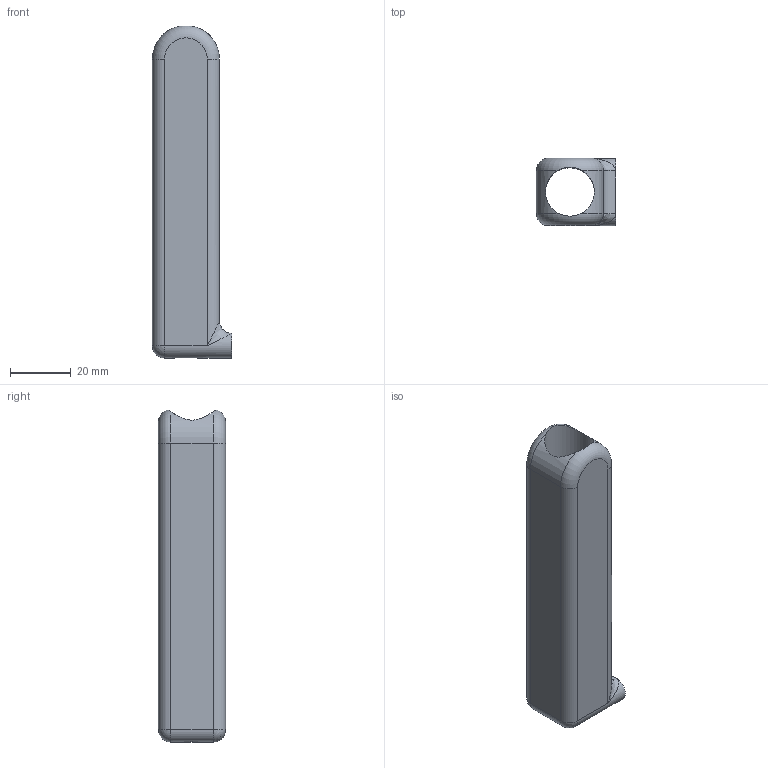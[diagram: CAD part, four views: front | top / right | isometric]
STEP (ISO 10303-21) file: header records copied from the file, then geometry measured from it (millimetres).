
FILE_DESCRIPTION(/* description */ (''),/* implementation_level */ '2;1');
FILE_NAME(/* name */ 'C:/Users/Owner/Desktop/KCAD Projects/K-CAD Songbird PM4 Center-fire/STEP/Barrels/Barrel Type 2/Barrel Type 2- 16mm ID.step',/* time_stamp */ '2021-03-12T15:14:10-05:00',/* author */ (''),/* organization */ (''),/* preprocessor_version */ 'ST-DEVELOPER v18.1',/* originating_system */ 'Autodesk Translation Framework v9.10.0.1330',/* authorisation */ '');
FILE_SCHEMA (('AUTOMOTIVE_DESIGN { 1 0 10303 214 3 1 1 }'));
Length unit declared in the file: millimetre
Products named in the file (1): Barrel Type 2 .4 inch ID
Bounding box: 26 x 22 x 108.87 mm (x, y, z)
Volume: 28844.2 mm3; surface area: 14509.3 mm2
Topology: 1 solids, 1 shells, 25 faces, 64 edges, 36 vertices
Faces by surface type: cylinder 11, plane 8, torus 2, bspline 2, sphere 2
Full cylindrical faces by diameter (mm): 16 x1
Entity records: 917 total; most frequent: CARTESIAN_POINT 285, DIRECTION 131, ORIENTED_EDGE 122, EDGE_CURVE 61, AXIS2_PLACEMENT_3D 54, VERTEX_POINT 36, CIRCLE 26, FACE_OUTER_BOUND 25
